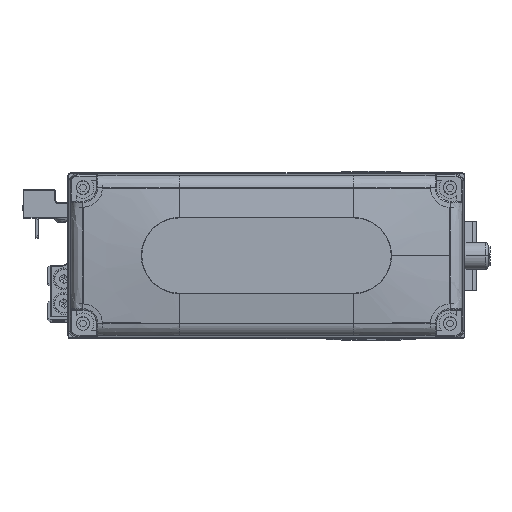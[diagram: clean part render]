
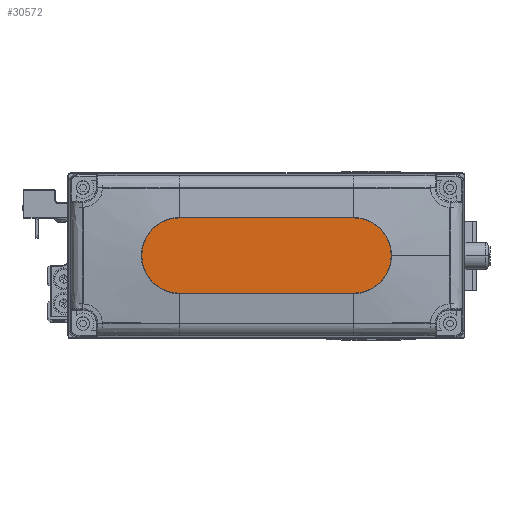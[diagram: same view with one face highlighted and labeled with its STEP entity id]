
A CAD part, top view. The second image highlights one B-rep face of the part: STEP entity #30572.
In plain terms, the highlighted planar face has unit normal (0, 0, 1).
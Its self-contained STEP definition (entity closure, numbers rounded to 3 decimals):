
#295 = VERTEX_POINT ( 'NONE', #28773 ) ;
#2360 = VERTEX_POINT ( 'NONE', #25253 ) ;
#3646 = CARTESIAN_POINT ( 'NONE',  ( -32., 0., 35. ) ) ;
#6024 = ORIENTED_EDGE ( 'NONE', *, *, #41606, .T. ) ;
#6084 = DIRECTION ( 'NONE',  ( 0., 0., 1. ) ) ;
#6621 = EDGE_CURVE ( 'NONE', #30535, #295, #18940, .T. ) ;
#6827 = EDGE_CURVE ( 'NONE', #295, #10974, #25269, .T. ) ;
#7929 = DIRECTION ( 'NONE',  ( -1., 0., 0. ) ) ;
#8754 = CARTESIAN_POINT ( 'NONE',  ( 0., 0., 35. ) ) ;
#9786 = VECTOR ( 'NONE', #44621, 1000. ) ;
#10749 = VERTEX_POINT ( 'NONE', #44427 ) ;
#10974 = VERTEX_POINT ( 'NONE', #22017 ) ;
#11698 = ORIENTED_EDGE ( 'NONE', *, *, #31232, .T. ) ;
#13407 = CARTESIAN_POINT ( 'NONE',  ( 32., 0., 35. ) ) ;
#15386 = CIRCLE ( 'NONE', #40922, 14. ) ;
#15456 = AXIS2_PLACEMENT_3D ( 'NONE', #8754, #22675, #36597 ) ;
#15673 = EDGE_CURVE ( 'NONE', #2360, #30535, #18175, .T. ) ;
#16757 = LINE ( 'NONE', #30666, #9786 ) ;
#17582 = DIRECTION ( 'NONE',  ( 0., 0., 1. ) ) ;
#18175 = CIRCLE ( 'NONE', #43693, 14. ) ;
#18236 = VECTOR ( 'NONE', #7929, 1000. ) ;
#18940 = CIRCLE ( 'NONE', #44457, 14. ) ;
#20008 = DIRECTION ( 'NONE',  ( 1., 0., 0. ) ) ;
#22017 = CARTESIAN_POINT ( 'NONE',  ( -32., 14., 35. ) ) ;
#22675 = DIRECTION ( 'NONE',  ( 0., 0., 1. ) ) ;
#25253 = CARTESIAN_POINT ( 'NONE',  ( 32., -14., 35. ) ) ;
#25269 = LINE ( 'NONE', #39210, #18236 ) ;
#26098 = FACE_OUTER_BOUND ( 'NONE', #29325, .T. ) ;
#27314 = DIRECTION ( 'NONE',  ( 0., 0., 1. ) ) ;
#28773 = CARTESIAN_POINT ( 'NONE',  ( 32., 14., 35. ) ) ;
#29325 = EDGE_LOOP ( 'NONE', ( #41303, #11698, #6024, #44532, #29443 ) ) ;
#29443 = ORIENTED_EDGE ( 'NONE', *, *, #6621, .T. ) ;
#30535 = VERTEX_POINT ( 'NONE', #43016 ) ;
#30572 = ADVANCED_FACE ( 'NONE', ( #26098 ), #40045, .T. ) ;
#30666 = CARTESIAN_POINT ( 'NONE',  ( -32., -14., 35. ) ) ;
#31232 = EDGE_CURVE ( 'NONE', #10974, #10749, #15386, .T. ) ;
#31495 = DIRECTION ( 'NONE',  ( 1., 0., 0. ) ) ;
#36597 = DIRECTION ( 'NONE',  ( 1., 0., 0. ) ) ;
#37362 = CARTESIAN_POINT ( 'NONE',  ( 32., 0., 35. ) ) ;
#39210 = CARTESIAN_POINT ( 'NONE',  ( -32., 14., 35. ) ) ;
#40045 = PLANE ( 'NONE',  #15456 ) ;
#40922 = AXIS2_PLACEMENT_3D ( 'NONE', #3646, #17582, #31495 ) ;
#41280 = DIRECTION ( 'NONE',  ( 1., 0., 0. ) ) ;
#41303 = ORIENTED_EDGE ( 'NONE', *, *, #6827, .T. ) ;
#41606 = EDGE_CURVE ( 'NONE', #10749, #2360, #16757, .T. ) ;
#43016 = CARTESIAN_POINT ( 'NONE',  ( 46., 0., 35. ) ) ;
#43693 = AXIS2_PLACEMENT_3D ( 'NONE', #37362, #6084, #20008 ) ;
#44427 = CARTESIAN_POINT ( 'NONE',  ( -32., -14., 35. ) ) ;
#44457 = AXIS2_PLACEMENT_3D ( 'NONE', #13407, #27314, #41280 ) ;
#44532 = ORIENTED_EDGE ( 'NONE', *, *, #15673, .T. ) ;
#44621 = DIRECTION ( 'NONE',  ( 1., 0., 0. ) ) ;
